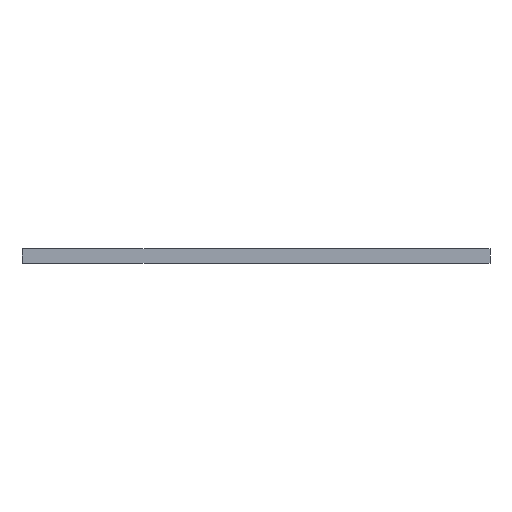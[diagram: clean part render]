
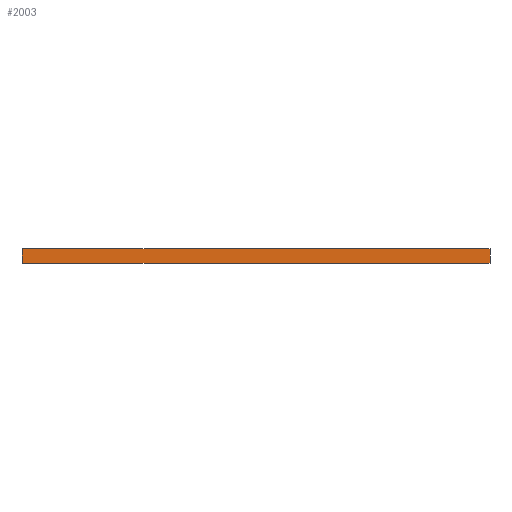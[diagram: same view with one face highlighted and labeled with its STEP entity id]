
A CAD part, front view. The second image highlights one B-rep face of the part: STEP entity #2003.
In plain terms, the highlighted planar face has unit normal (0, -1, 0).
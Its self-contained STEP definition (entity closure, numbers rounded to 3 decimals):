
#33 = VERTEX_POINT('',#34);
#34 = CARTESIAN_POINT('',(103.26,60.,225.5));
#42 = EDGE_CURVE('',#33,#43,#45,.T.);
#43 = VERTEX_POINT('',#44);
#44 = CARTESIAN_POINT('',(166.74,60.,225.5));
#45 = LINE('',#46,#47);
#46 = CARTESIAN_POINT('',(103.26,60.,225.5));
#47 = VECTOR('',#48,1.);
#48 = DIRECTION('',(1.,0.,0.));
#903 = EDGE_CURVE('',#904,#33,#906,.T.);
#904 = VERTEX_POINT('',#905);
#905 = CARTESIAN_POINT('',(103.26,60.,223.5));
#906 = LINE('',#907,#908);
#907 = CARTESIAN_POINT('',(103.26,60.,223.5));
#908 = VECTOR('',#909,1.);
#909 = DIRECTION('',(0.,0.,1.));
#1984 = EDGE_CURVE('',#1985,#43,#1987,.T.);
#1985 = VERTEX_POINT('',#1986);
#1986 = CARTESIAN_POINT('',(166.74,60.,223.5));
#1987 = LINE('',#1988,#1989);
#1988 = CARTESIAN_POINT('',(166.74,60.,223.5));
#1989 = VECTOR('',#1990,1.);
#1990 = DIRECTION('',(0.,0.,1.));
#2003 = ADVANCED_FACE('',(#2004),#2015,.F.);
#2004 = FACE_BOUND('',#2005,.F.);
#2005 = EDGE_LOOP('',(#2006,#2012,#2013,#2014));
#2006 = ORIENTED_EDGE('',*,*,#2007,.F.);
#2007 = EDGE_CURVE('',#904,#1985,#2008,.T.);
#2008 = LINE('',#2009,#2010);
#2009 = CARTESIAN_POINT('',(103.26,60.,223.5));
#2010 = VECTOR('',#2011,1.);
#2011 = DIRECTION('',(1.,0.,0.));
#2012 = ORIENTED_EDGE('',*,*,#903,.T.);
#2013 = ORIENTED_EDGE('',*,*,#42,.T.);
#2014 = ORIENTED_EDGE('',*,*,#1984,.F.);
#2015 = PLANE('',#2016);
#2016 = AXIS2_PLACEMENT_3D('',#2017,#2018,#2019);
#2017 = CARTESIAN_POINT('',(103.26,60.,223.5));
#2018 = DIRECTION('',(0.,1.,0.));
#2019 = DIRECTION('',(0.,0.,1.));
